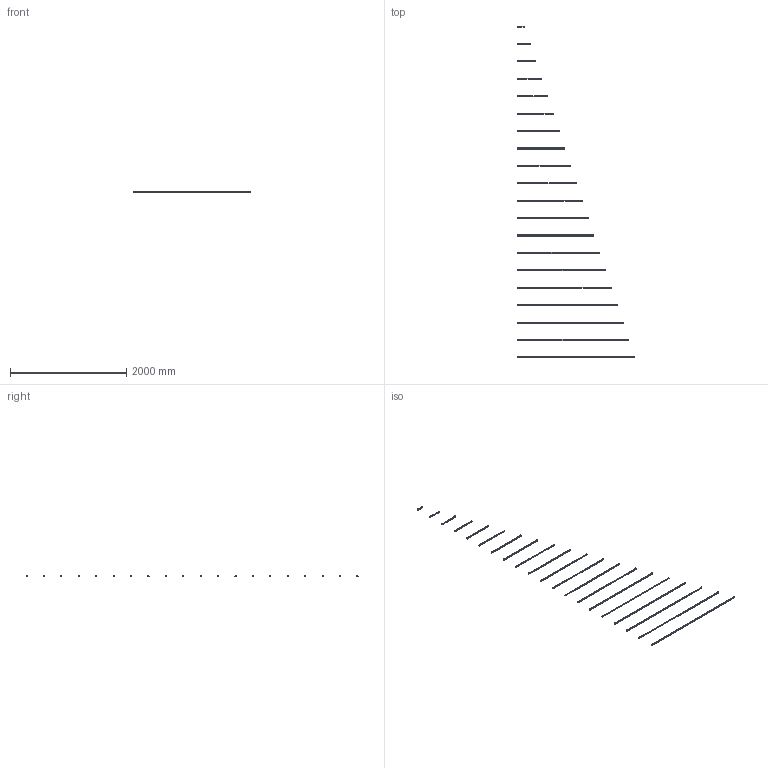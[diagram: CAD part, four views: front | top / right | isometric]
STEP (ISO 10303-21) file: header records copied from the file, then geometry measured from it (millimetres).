
FILE_DESCRIPTION(/* description */ (''),/* implementation_level */ '2;1');
FILE_NAME(/* name */ 'C:/Users/elena/OneDrive/Allegati di posta elettronica/Desktop/Piko mono 01C.step',/* time_stamp */ '2020-05-18T11:43:04+02:00',/* author */ (''),/* organization */ (''),/* preprocessor_version */ 'ST-DEVELOPER v18.1',/* originating_system */ 'Autodesk Translation Framework v9.3.0.1241',/* authorisation */ '');
FILE_SCHEMA (('AUTOMOTIVE_DESIGN { 1 0 10303 214 3 1 1 }'));
Products named in the file (2): Piko mono 01C; 01C
Assembly tree (1 placements, depth 2):
  Piko mono 01C
    01C
Bounding box: 2020 x 5719.8 x 29.63 mm (x, y, z)
Volume: 5194259.7 mm3; surface area: 2512682.5 mm2
Topology: 120 solids, 120 shells, 2469 faces, 6066 edges, 4037 vertices
Faces by surface type: cylinder 1280, plane 1029, bspline 120, cone 40
Full cylindrical faces by diameter (mm): 2.5 x80, 3 x40, 6 x40, 19.8 x40
Entity records: 98136 total; most frequent: CARTESIAN_POINT 37895, DIRECTION 13130, ORIENTED_EDGE 12132, EDGE_CURVE 6066, AXIS2_PLACEMENT_3D 4952, VERTEX_POINT 4037, LINE 3226, VECTOR 3226
